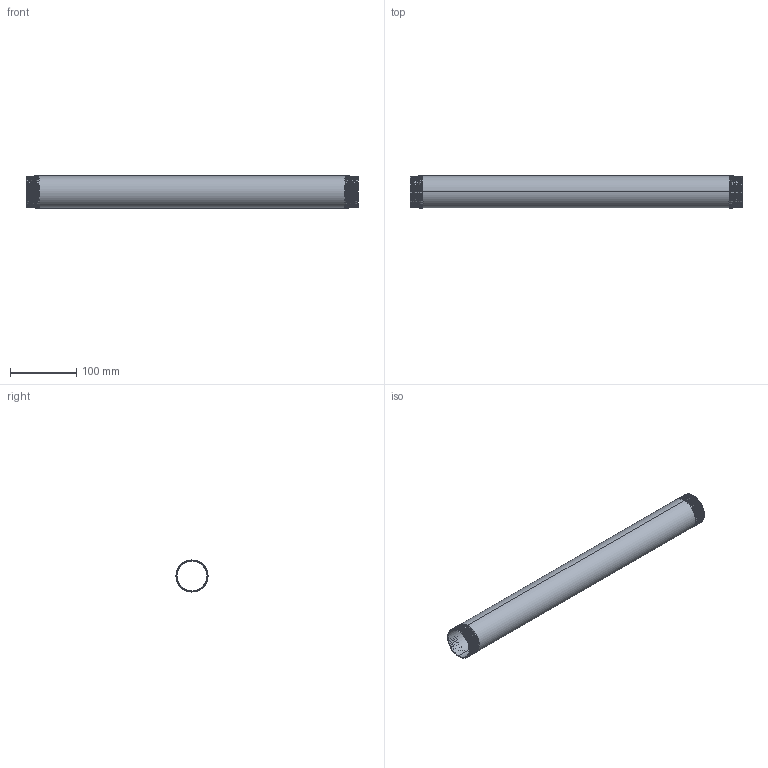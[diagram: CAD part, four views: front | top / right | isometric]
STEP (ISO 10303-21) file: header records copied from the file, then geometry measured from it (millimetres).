
FILE_DESCRIPTION (( 'STEP AP203' ), '1' );
FILE_NAME ('3D_R210_1 1-2x500_17191535.STEP', '2024-08-16T14:41:02', ( '' ), ( '' ), 'SwSTEP 2.0', 'SolidWorks 2024', '' );
FILE_SCHEMA (( 'CONFIG_CONTROL_DESIGN' ));
Length unit declared in the file: millimetre
Products named in the file (1): 3D_R210_1 1-2x500_17191535
Bounding box: 500 x 48.28 x 48.3 mm (x, y, z)
Volume: 142299.8 mm3; surface area: 148911.1 mm2
Topology: 1 solids, 1 shells, 82 faces, 232 edges, 152 vertices
Faces by surface type: cone 68, bspline 6, cylinder 4, plane 4
Entity records: 14349 total; most frequent: CARTESIAN_POINT 12447, ORIENTED_EDGE 464, DIRECTION 256, EDGE_CURVE 232, VERTEX_POINT 152, B_SPLINE_CURVE_WITH_KNOTS 134, AXIS2_PLACEMENT_3D 89, EDGE_LOOP 84
